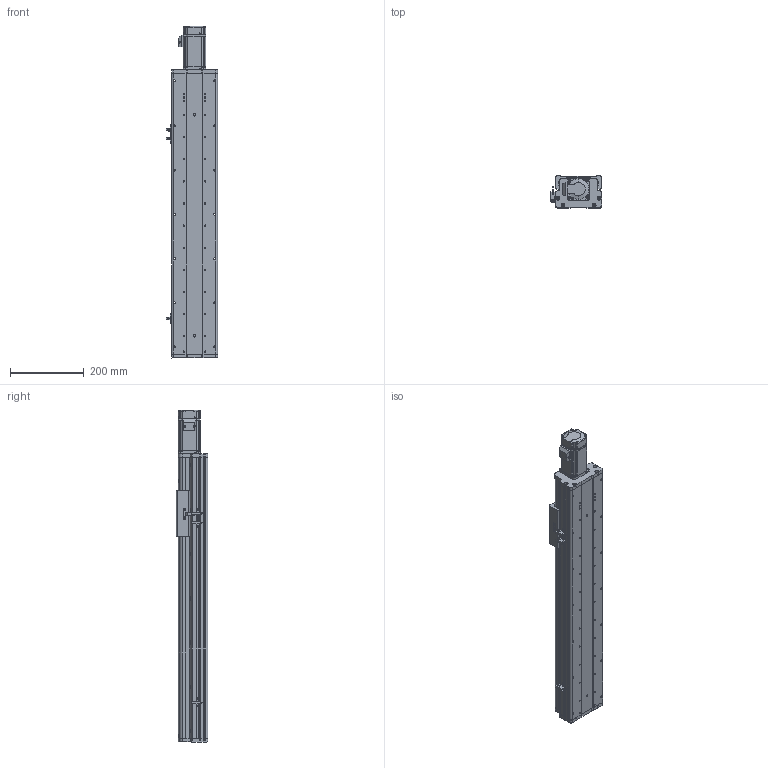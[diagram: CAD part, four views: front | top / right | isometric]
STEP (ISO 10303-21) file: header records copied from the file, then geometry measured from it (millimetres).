
FILE_DESCRIPTION (( 'STEP AP214' ), '1' );
FILE_NAME ('KSD125S-S500-MN-CM.STEP', '2017-08-07T06:12:30', ( '微软用户' ), ( '微软中国' ), 'SwSTEP 2.0', 'SolidWorks 2014', '' );
FILE_SCHEMA (( 'AUTOMOTIVE_DESIGN' ));
Length unit declared in the file: millimetre
Products named in the file (11): U倰嫖萇EEㄜSX672; KSD125-賑雄釱1; CS-34X32-10X14; 125-帣傷啣1; KSD125S-S500-MN-CM; KSD125S-500行程丝杆防尘盖-直连不带电机座; KSD125S-500行程丝杆底板-直连不带电机座; 125宽模组 - 直连不带电机座电机安装板; MHMD042G1CA_2_03; 覜茼え68遵圉猾敕; U倰嫖萇假蚾璃
Assembly tree (14 placements, depth 2):
  KSD125S-S500-MN-CM
    125-帣傷啣1
    CS-34X32-10X14
    KSD125-賑雄釱1
    U倰嫖萇EEㄜSX672  x3
    U倰嫖萇假蚾璃  x3
    覜茼え68遵圉猾敕
    MHMD042G1CA_2_03
    125宽模组 - 直连不带电机座电机安装板
    KSD125S-500行程丝杆底板-直连不带电机座
    KSD125S-500行程丝杆防尘盖-直连不带电机座
Bounding box: 138.7 x 86 x 901.5 mm (x, y, z)
Volume: 2651405.6 mm3; surface area: 877183.4 mm2
Topology: 13 solids, 16 shells, 1425 faces, 4136 edges, 2723 vertices
Faces by surface type: cylinder 706, plane 610, cone 87, bspline 22
Entity records: 50203 total; most frequent: CARTESIAN_POINT 10783, DIRECTION 7084, ORIENTED_EDGE 6780, EDGE_CURVE 3468, AXIS2_PLACEMENT_3D 2594, VERTEX_POINT 2315, LINE 1896, VECTOR 1896
